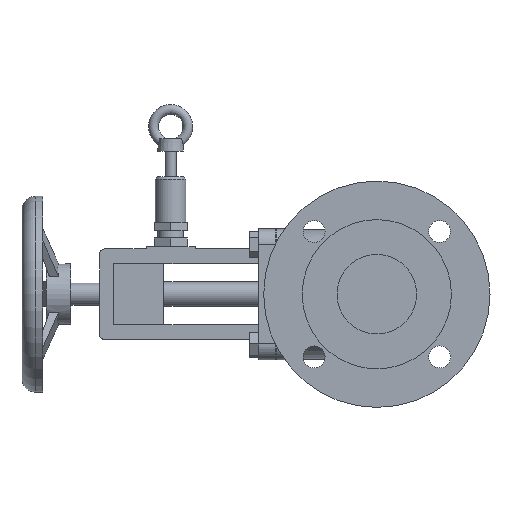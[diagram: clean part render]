
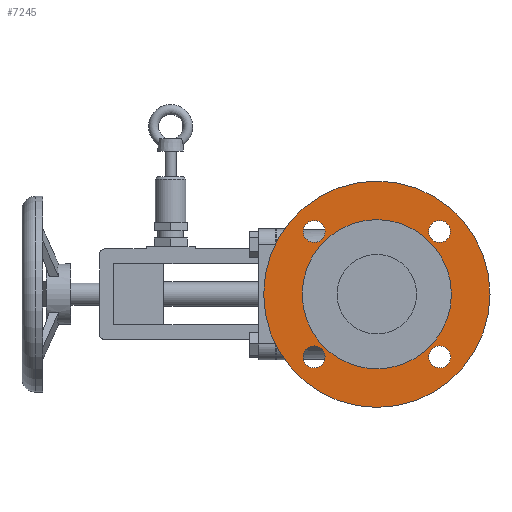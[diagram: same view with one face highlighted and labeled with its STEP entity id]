
A CAD part, left-side view. The second image highlights one B-rep face of the part: STEP entity #7245.
In plain terms, the highlighted planar face has unit normal (-1, 0, 0).
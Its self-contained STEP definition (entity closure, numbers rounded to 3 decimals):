
#214=FACE_BOUND('',#2616,.T.);
#215=FACE_BOUND('',#2617,.T.);
#216=FACE_BOUND('',#2618,.T.);
#217=FACE_BOUND('',#2619,.T.);
#218=FACE_BOUND('',#2620,.T.);
#1821=PLANE('',#7684);
#2187=FACE_OUTER_BOUND('',#2615,.T.);
#2615=EDGE_LOOP('',(#6438));
#2616=EDGE_LOOP('',(#6439));
#2617=EDGE_LOOP('',(#6440));
#2618=EDGE_LOOP('',(#6441));
#2619=EDGE_LOOP('',(#6442));
#2620=EDGE_LOOP('',(#6443));
#2723=CIRCLE('',#7609,92.5);
#2726=CIRCLE('',#7613,9.);
#2728=CIRCLE('',#7616,9.);
#2730=CIRCLE('',#7619,9.);
#2732=CIRCLE('',#7622,9.);
#2733=CIRCLE('',#7624,61.);
#3481=VERTEX_POINT('',#12385);
#3484=VERTEX_POINT('',#12393);
#3486=VERTEX_POINT('',#12399);
#3488=VERTEX_POINT('',#12405);
#3490=VERTEX_POINT('',#12411);
#3491=VERTEX_POINT('',#12415);
#4412=EDGE_CURVE('',#3481,#3481,#2723,.T.);
#4417=EDGE_CURVE('',#3484,#3484,#2726,.T.);
#4420=EDGE_CURVE('',#3486,#3486,#2728,.T.);
#4423=EDGE_CURVE('',#3488,#3488,#2730,.T.);
#4426=EDGE_CURVE('',#3490,#3490,#2732,.T.);
#4427=EDGE_CURVE('',#3491,#3491,#2733,.T.);
#6438=ORIENTED_EDGE('',*,*,#4412,.F.);
#6439=ORIENTED_EDGE('',*,*,#4420,.F.);
#6440=ORIENTED_EDGE('',*,*,#4423,.F.);
#6441=ORIENTED_EDGE('',*,*,#4426,.F.);
#6442=ORIENTED_EDGE('',*,*,#4417,.F.);
#6443=ORIENTED_EDGE('',*,*,#4427,.F.);
#7245=ADVANCED_FACE('',(#2187,#214,#215,#216,#217,#218),#1821,.F.);
#7609=AXIS2_PLACEMENT_3D('',#12386,#8928,#8929);
#7613=AXIS2_PLACEMENT_3D('',#12395,#8938,#8939);
#7616=AXIS2_PLACEMENT_3D('',#12401,#8945,#8946);
#7619=AXIS2_PLACEMENT_3D('',#12407,#8952,#8953);
#7622=AXIS2_PLACEMENT_3D('',#12413,#8959,#8960);
#7624=AXIS2_PLACEMENT_3D('',#12416,#8963,#8964);
#7684=AXIS2_PLACEMENT_3D('',#12636,#9174,#9175);
#8928=DIRECTION('center_axis',(1.,0.,0.));
#8929=DIRECTION('ref_axis',(0.,0.,-1.));
#8938=DIRECTION('center_axis',(-1.,0.,0.));
#8939=DIRECTION('ref_axis',(0.,0.,-1.));
#8945=DIRECTION('center_axis',(-1.,0.,0.));
#8946=DIRECTION('ref_axis',(0.,0.,-1.));
#8952=DIRECTION('center_axis',(-1.,0.,0.));
#8953=DIRECTION('ref_axis',(0.,0.,-1.));
#8959=DIRECTION('center_axis',(-1.,0.,0.));
#8960=DIRECTION('ref_axis',(0.,0.,-1.));
#8963=DIRECTION('center_axis',(-1.,0.,0.));
#8964=DIRECTION('ref_axis',(0.,1.,0.));
#9174=DIRECTION('center_axis',(1.,0.,0.));
#9175=DIRECTION('ref_axis',(0.,0.,-1.));
#12385=CARTESIAN_POINT('',(-173.468,-41.62,61.25));
#12386=CARTESIAN_POINT('Origin',(-173.468,-41.62,-31.25));
#12393=CARTESIAN_POINT('',(-173.468,9.646,-73.515));
#12395=CARTESIAN_POINT('Origin',(-173.468,9.646,-82.515));
#12399=CARTESIAN_POINT('',(-173.468,-92.885,-73.515));
#12401=CARTESIAN_POINT('Origin',(-173.468,-92.885,-82.515));
#12405=CARTESIAN_POINT('',(-173.468,9.646,29.015));
#12407=CARTESIAN_POINT('Origin',(-173.468,9.646,20.015));
#12411=CARTESIAN_POINT('',(-173.468,-92.885,29.015));
#12413=CARTESIAN_POINT('Origin',(-173.468,-92.885,20.015));
#12415=CARTESIAN_POINT('',(-173.468,-102.62,-31.25));
#12416=CARTESIAN_POINT('Origin',(-173.468,-41.62,-31.25));
#12636=CARTESIAN_POINT('Origin',(-173.468,35.13,-31.25));
